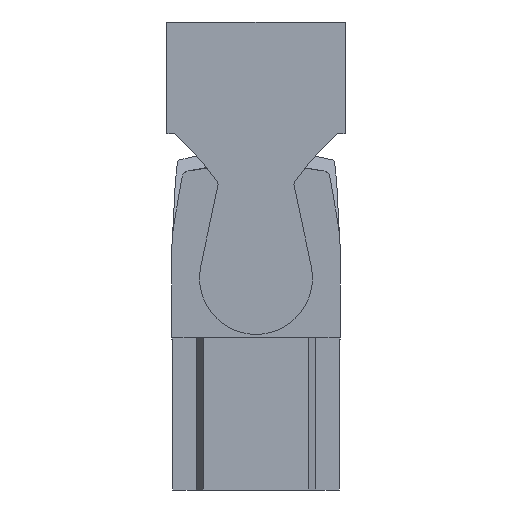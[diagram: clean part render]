
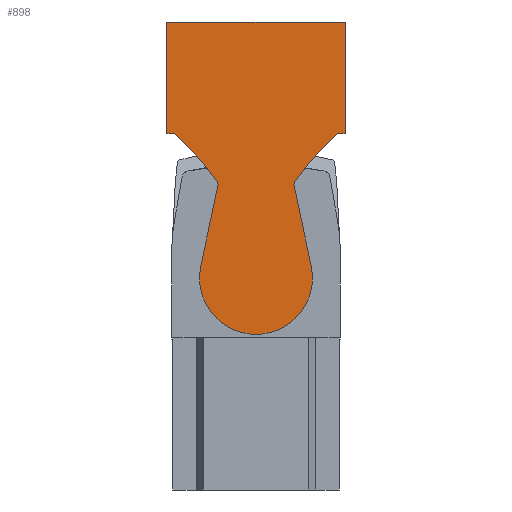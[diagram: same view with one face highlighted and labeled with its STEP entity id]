
A CAD part, front view. The second image highlights one B-rep face of the part: STEP entity #898.
In plain terms, the highlighted planar face has unit normal (0, -1, 0).
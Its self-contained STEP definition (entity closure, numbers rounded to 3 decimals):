
#63=DIRECTION('',(1.,0.,0.));
#64=VECTOR('',#63,110.);
#65=CARTESIAN_POINT('',(-55.,-500.,9.));
#66=LINE('',#65,#64);
#67=DIRECTION('',(0.,0.,-1.));
#68=VECTOR('',#67,69.);
#69=CARTESIAN_POINT('',(55.,-500.,9.));
#70=LINE('',#69,#68);
#71=DIRECTION('',(-1.,0.,0.));
#72=VECTOR('',#71,4.573);
#73=CARTESIAN_POINT('',(55.,-500.,-60.));
#74=LINE('',#73,#72);
#75=CARTESIAN_POINT('',(170.24,-500.,-193.66));
#76=DIRECTION('',(0.,-1.,0.));
#77=DIRECTION('',(-0.667,0.,0.745));
#78=AXIS2_PLACEMENT_3D('',#75,#76,#77);
#80=CARTESIAN_POINT('',(26.436,-500.,-91.324));
#81=DIRECTION('',(0.,-1.,0.));
#82=DIRECTION('',(-0.815,0.,0.58));
#83=AXIS2_PLACEMENT_3D('',#80,#81,#82);
#85=DIRECTION('',(0.208,0.,-0.978));
#86=VECTOR('',#85,50.919);
#87=CARTESIAN_POINT('',(23.502,-500.,-91.948));
#88=LINE('',#87,#86);
#89=CARTESIAN_POINT('',(0.,-500.,-149.));
#90=DIRECTION('',(0.,1.,0.));
#91=DIRECTION('',(0.978,0.,0.208));
#92=AXIS2_PLACEMENT_3D('',#89,#90,#91);
#94=DIRECTION('',(0.208,0.,0.978));
#95=VECTOR('',#94,50.919);
#96=CARTESIAN_POINT('',(-34.088,-500.,-141.754));
#97=LINE('',#96,#95);
#98=CARTESIAN_POINT('',(-26.436,-500.,-91.324));
#99=DIRECTION('',(0.,-1.,0.));
#100=DIRECTION('',(0.978,0.,-0.208));
#101=AXIS2_PLACEMENT_3D('',#98,#99,#100);
#103=CARTESIAN_POINT('',(-170.24,-500.,-193.66));
#104=DIRECTION('',(0.,-1.,0.));
#105=DIRECTION('',(0.815,0.,0.58));
#106=AXIS2_PLACEMENT_3D('',#103,#104,#105);
#108=DIRECTION('',(-1.,0.,0.));
#109=VECTOR('',#108,4.573);
#110=CARTESIAN_POINT('',(-50.427,-500.,-60.));
#111=LINE('',#110,#109);
#112=DIRECTION('',(0.,0.,1.));
#113=VECTOR('',#112,69.);
#114=CARTESIAN_POINT('',(-55.,-500.,-60.));
#115=LINE('',#114,#113);
#679=CARTESIAN_POINT('',(-55.,-500.,9.));
#680=CARTESIAN_POINT('',(55.,-500.,9.));
#681=VERTEX_POINT('',#679);
#682=VERTEX_POINT('',#680);
#683=CARTESIAN_POINT('',(55.,-500.,-60.));
#684=VERTEX_POINT('',#683);
#685=CARTESIAN_POINT('',(50.427,-500.,-60.));
#686=VERTEX_POINT('',#685);
#687=CARTESIAN_POINT('',(23.992,-500.,-89.585));
#688=VERTEX_POINT('',#687);
#689=CARTESIAN_POINT('',(23.502,-500.,-91.948));
#690=VERTEX_POINT('',#689);
#691=CARTESIAN_POINT('',(34.088,-500.,-141.754));
#692=VERTEX_POINT('',#691);
#693=CARTESIAN_POINT('',(-34.088,-500.,-141.754));
#694=VERTEX_POINT('',#693);
#695=CARTESIAN_POINT('',(-23.502,-500.,-91.948));
#696=VERTEX_POINT('',#695);
#697=CARTESIAN_POINT('',(-23.992,-500.,-89.585));
#698=VERTEX_POINT('',#697);
#699=CARTESIAN_POINT('',(-50.427,-500.,-60.));
#700=VERTEX_POINT('',#699);
#701=CARTESIAN_POINT('',(-55.,-500.,-60.));
#702=VERTEX_POINT('',#701);
#867=CARTESIAN_POINT('',(0.,-500.,0.));
#868=DIRECTION('',(0.,1.,0.));
#869=DIRECTION('',(1.,0.,0.));
#870=AXIS2_PLACEMENT_3D('',#867,#868,#869);
#871=PLANE('',#870);
#873=ORIENTED_EDGE('',*,*,#872,.T.);
#875=ORIENTED_EDGE('',*,*,#874,.T.);
#877=ORIENTED_EDGE('',*,*,#876,.T.);
#879=ORIENTED_EDGE('',*,*,#878,.T.);
#881=ORIENTED_EDGE('',*,*,#880,.T.);
#883=ORIENTED_EDGE('',*,*,#882,.T.);
#885=ORIENTED_EDGE('',*,*,#884,.T.);
#887=ORIENTED_EDGE('',*,*,#886,.T.);
#889=ORIENTED_EDGE('',*,*,#888,.T.);
#891=ORIENTED_EDGE('',*,*,#890,.T.);
#893=ORIENTED_EDGE('',*,*,#892,.T.);
#895=ORIENTED_EDGE('',*,*,#894,.T.);
#896=EDGE_LOOP('',(#873,#875,#877,#879,#881,#883,#885,#887,#889,#891,#893,
#895));
#897=FACE_OUTER_BOUND('',#896,.F.);
#79=CIRCLE('',#78,179.5);
#84=CIRCLE('',#83,3.);
#93=CIRCLE('',#92,34.85);
#102=CIRCLE('',#101,3.);
#107=CIRCLE('',#106,179.5);
#872=EDGE_CURVE('',#681,#682,#66,.T.);
#874=EDGE_CURVE('',#682,#684,#70,.T.);
#876=EDGE_CURVE('',#684,#686,#74,.T.);
#878=EDGE_CURVE('',#686,#688,#79,.T.);
#880=EDGE_CURVE('',#688,#690,#84,.T.);
#882=EDGE_CURVE('',#690,#692,#88,.T.);
#884=EDGE_CURVE('',#692,#694,#93,.T.);
#886=EDGE_CURVE('',#694,#696,#97,.T.);
#888=EDGE_CURVE('',#696,#698,#102,.T.);
#890=EDGE_CURVE('',#698,#700,#107,.T.);
#892=EDGE_CURVE('',#700,#702,#111,.T.);
#894=EDGE_CURVE('',#702,#681,#115,.T.);
#898=ADVANCED_FACE('',(#897),#871,.F.);
